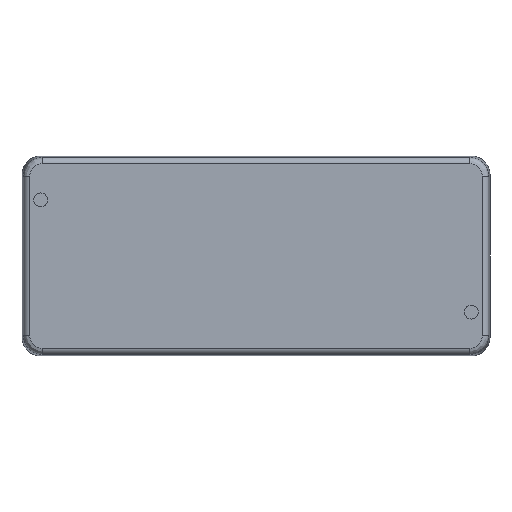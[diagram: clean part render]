
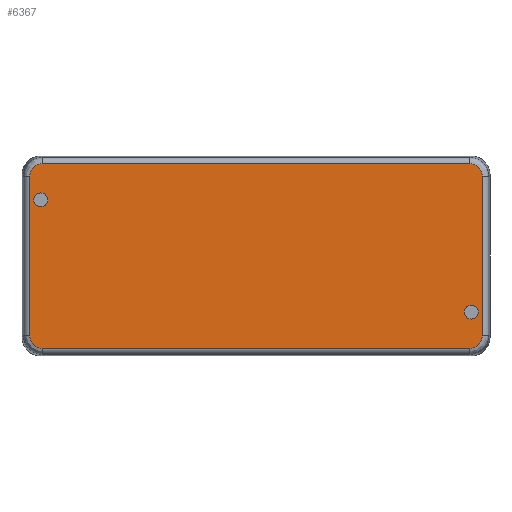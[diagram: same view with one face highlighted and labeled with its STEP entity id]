
A CAD part, front view. The second image highlights one B-rep face of the part: STEP entity #6367.
In plain terms, the highlighted planar face has unit normal (0, -1, 0).
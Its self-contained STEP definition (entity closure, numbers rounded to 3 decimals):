
#918=CARTESIAN_POINT('',(69.,-26.,-18.));
#919=DIRECTION('',(0.,1.,0.));
#920=DIRECTION('',(0.,0.,-1.));
#921=AXIS2_PLACEMENT_3D('',#918,#919,#920);
#926=CARTESIAN_POINT('',(69.,-26.,-18.));
#927=DIRECTION('',(0.,1.,0.));
#928=DIRECTION('',(0.,0.,1.));
#929=AXIS2_PLACEMENT_3D('',#926,#927,#928);
#934=CARTESIAN_POINT('',(-69.,-26.,18.));
#935=DIRECTION('',(0.,1.,0.));
#936=DIRECTION('',(0.,0.,-1.));
#937=AXIS2_PLACEMENT_3D('',#934,#935,#936);
#942=CARTESIAN_POINT('',(-69.,-26.,18.));
#943=DIRECTION('',(0.,1.,0.));
#944=DIRECTION('',(0.,0.,1.));
#945=AXIS2_PLACEMENT_3D('',#942,#943,#944);
#950=DIRECTION('',(0.,0.,-1.));
#951=VECTOR('',#950,51.078);
#952=CARTESIAN_POINT('',(-72.538,-26.,25.539));
#953=LINE('',#952,#951);
#957=CARTESIAN_POINT('',(-68.539,-26.,29.538));
#958=CARTESIAN_POINT('',(-68.85,-26.,29.538));
#959=CARTESIAN_POINT('',(-69.452,-26.,29.467));
#960=CARTESIAN_POINT('',(-70.31,-26.,29.163));
#961=CARTESIAN_POINT('',(-71.079,-26.,28.674));
#962=CARTESIAN_POINT('',(-71.723,-26.,28.012));
#963=CARTESIAN_POINT('',(-72.17,-26.,27.285));
#964=CARTESIAN_POINT('',(-72.462,-26.,26.469));
#965=CARTESIAN_POINT('',(-72.538,-26.,25.86));
#966=CARTESIAN_POINT('',(-72.538,-26.,25.539));
#971=DIRECTION('',(-1.,0.,0.));
#972=VECTOR('',#971,137.078);
#973=CARTESIAN_POINT('',(68.539,-26.,29.538));
#974=LINE('',#973,#972);
#978=CARTESIAN_POINT('',(72.538,-26.,25.539));
#979=CARTESIAN_POINT('',(72.538,-26.,25.85));
#980=CARTESIAN_POINT('',(72.467,-26.,26.452));
#981=CARTESIAN_POINT('',(72.163,-26.,27.31));
#982=CARTESIAN_POINT('',(71.674,-26.,28.079));
#983=CARTESIAN_POINT('',(71.012,-26.,28.723));
#984=CARTESIAN_POINT('',(70.285,-26.,29.17));
#985=CARTESIAN_POINT('',(69.469,-26.,29.462));
#986=CARTESIAN_POINT('',(68.86,-26.,29.538));
#987=CARTESIAN_POINT('',(68.539,-26.,29.538));
#992=DIRECTION('',(0.,0.,1.));
#993=VECTOR('',#992,51.078);
#994=CARTESIAN_POINT('',(72.538,-26.,-25.539));
#995=LINE('',#994,#993);
#999=CARTESIAN_POINT('',(68.539,-26.,-29.538));
#1000=CARTESIAN_POINT('',(68.85,-26.,-29.538));
#1001=CARTESIAN_POINT('',(69.452,-26.,-29.467));
#1002=CARTESIAN_POINT('',(70.31,-26.,-29.163));
#1003=CARTESIAN_POINT('',(71.079,-26.,-28.674));
#1004=CARTESIAN_POINT('',(71.723,-26.,-28.012));
#1005=CARTESIAN_POINT('',(72.17,-26.,-27.285));
#1006=CARTESIAN_POINT('',(72.462,-26.,-26.469));
#1007=CARTESIAN_POINT('',(72.538,-26.,-25.86));
#1008=CARTESIAN_POINT('',(72.538,-26.,-25.539));
#1013=DIRECTION('',(1.,0.,0.));
#1014=VECTOR('',#1013,137.078);
#1015=CARTESIAN_POINT('',(-68.539,-26.,-29.538));
#1016=LINE('',#1015,#1014);
#1020=CARTESIAN_POINT('',(-72.538,-26.,-25.539));
#1021=CARTESIAN_POINT('',(-72.538,-26.,-25.85));
#1022=CARTESIAN_POINT('',(-72.467,-26.,-26.452));
#1023=CARTESIAN_POINT('',(-72.163,-26.,-27.31));
#1024=CARTESIAN_POINT('',(-71.674,-26.,-28.079));
#1025=CARTESIAN_POINT('',(-71.012,-26.,-28.723));
#1026=CARTESIAN_POINT('',(-70.285,-26.,-29.17));
#1027=CARTESIAN_POINT('',(-69.469,-26.,-29.462));
#1028=CARTESIAN_POINT('',(-68.86,-26.,-29.538));
#1029=CARTESIAN_POINT('',(-68.539,-26.,-29.538));
#5654=CARTESIAN_POINT('',(69.,-26.,-20.2));
#5655=CARTESIAN_POINT('',(69.,-26.,-15.8));
#5656=VERTEX_POINT('',#5654);
#5657=VERTEX_POINT('',#5655);
#5672=CARTESIAN_POINT('',(-72.538,-26.,25.539));
#5673=CARTESIAN_POINT('',(-72.538,-26.,-25.539));
#5674=VERTEX_POINT('',#5672);
#5675=VERTEX_POINT('',#5673);
#5680=VERTEX_POINT('',#957);
#5682=CARTESIAN_POINT('',(68.539,-26.,29.538));
#5683=VERTEX_POINT('',#5682);
#5686=VERTEX_POINT('',#978);
#5688=CARTESIAN_POINT('',(72.538,-26.,-25.539));
#5689=VERTEX_POINT('',#5688);
#5692=VERTEX_POINT('',#1029);
#5694=CARTESIAN_POINT('',(68.539,-26.,-29.538));
#5695=VERTEX_POINT('',#5694);
#6275=CARTESIAN_POINT('',(-69.,-26.,15.8));
#6276=CARTESIAN_POINT('',(-69.,-26.,20.2));
#6277=VERTEX_POINT('',#6275);
#6278=VERTEX_POINT('',#6276);
#6332=CARTESIAN_POINT('',(0.,-26.,0.));
#6333=DIRECTION('',(0.,-1.,0.));
#6334=DIRECTION('',(1.,0.,0.));
#6335=AXIS2_PLACEMENT_3D('',#6332,#6333,#6334);
#6336=PLANE('',#6335);
#6338=ORIENTED_EDGE('',*,*,#6337,.F.);
#6340=ORIENTED_EDGE('',*,*,#6339,.F.);
#6342=ORIENTED_EDGE('',*,*,#6341,.F.);
#6344=ORIENTED_EDGE('',*,*,#6343,.F.);
#6346=ORIENTED_EDGE('',*,*,#6345,.F.);
#6348=ORIENTED_EDGE('',*,*,#6347,.F.);
#6350=ORIENTED_EDGE('',*,*,#6349,.F.);
#6352=ORIENTED_EDGE('',*,*,#6351,.F.);
#6353=EDGE_LOOP('',(#6338,#6340,#6342,#6344,#6346,#6348,#6350,#6352));
#6354=FACE_OUTER_BOUND('',#6353,.F.);
#6356=ORIENTED_EDGE('',*,*,#6355,.F.);
#6358=ORIENTED_EDGE('',*,*,#6357,.F.);
#6359=EDGE_LOOP('',(#6356,#6358));
#6360=FACE_BOUND('',#6359,.F.);
#6362=ORIENTED_EDGE('',*,*,#6361,.F.);
#6364=ORIENTED_EDGE('',*,*,#6363,.F.);
#6365=EDGE_LOOP('',(#6362,#6364));
#6366=FACE_BOUND('',#6365,.F.);
#922=CIRCLE('',#921,2.2);
#930=CIRCLE('',#929,2.2);
#938=CIRCLE('',#937,2.2);
#946=CIRCLE('',#945,2.2);
#967=B_SPLINE_CURVE_WITH_KNOTS('',3,(#957,#958,#959,#960,#961,#962,#963,#964,
#965,#966),.UNSPECIFIED.,.F.,.F.,(4,1,1,1,1,1,1,4),(0.,0.143,
0.286,0.429,0.571,0.714,
0.857,1.),.UNSPECIFIED.);
#988=B_SPLINE_CURVE_WITH_KNOTS('',3,(#978,#979,#980,#981,#982,#983,#984,#985,
#986,#987),.UNSPECIFIED.,.F.,.F.,(4,1,1,1,1,1,1,4),(0.,0.143,
0.286,0.429,0.571,0.714,
0.857,1.),.UNSPECIFIED.);
#1009=B_SPLINE_CURVE_WITH_KNOTS('',3,(#999,#1000,#1001,#1002,#1003,#1004,#1005,
#1006,#1007,#1008),.UNSPECIFIED.,.F.,.F.,(4,1,1,1,1,1,1,4),(0.,
0.143,0.286,0.429,0.571,
0.714,0.857,1.),.UNSPECIFIED.);
#1030=B_SPLINE_CURVE_WITH_KNOTS('',3,(#1020,#1021,#1022,#1023,#1024,#1025,#1026,
#1027,#1028,#1029),.UNSPECIFIED.,.F.,.F.,(4,1,1,1,1,1,1,4),(0.,
0.143,0.286,0.429,0.571,
0.714,0.857,1.),.UNSPECIFIED.);
#6337=EDGE_CURVE('',#5674,#5675,#953,.T.);
#6339=EDGE_CURVE('',#5680,#5674,#967,.T.);
#6341=EDGE_CURVE('',#5683,#5680,#974,.T.);
#6343=EDGE_CURVE('',#5686,#5683,#988,.T.);
#6345=EDGE_CURVE('',#5689,#5686,#995,.T.);
#6347=EDGE_CURVE('',#5695,#5689,#1009,.T.);
#6349=EDGE_CURVE('',#5692,#5695,#1016,.T.);
#6351=EDGE_CURVE('',#5675,#5692,#1030,.T.);
#6355=EDGE_CURVE('',#6277,#6278,#938,.T.);
#6357=EDGE_CURVE('',#6278,#6277,#946,.T.);
#6361=EDGE_CURVE('',#5656,#5657,#922,.T.);
#6363=EDGE_CURVE('',#5657,#5656,#930,.T.);
#6367=ADVANCED_FACE('',(#6354,#6360,#6366),#6336,.T.);
